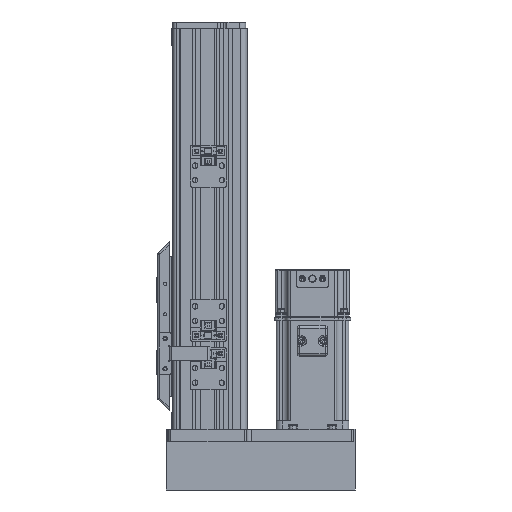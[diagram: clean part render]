
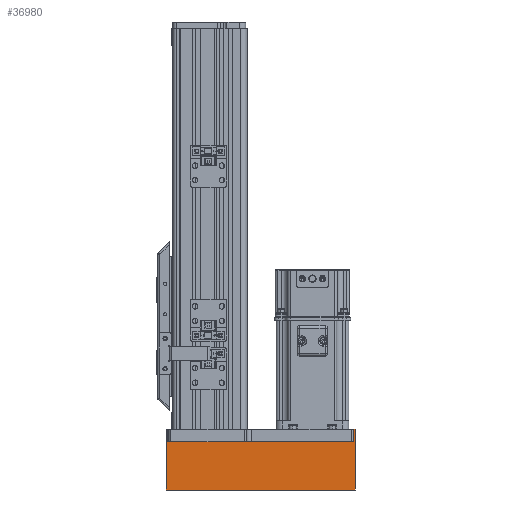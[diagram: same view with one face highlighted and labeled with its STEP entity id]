
A CAD part, left-side view. The second image highlights one B-rep face of the part: STEP entity #36980.
In plain terms, the highlighted planar face has unit normal (-1, 0, 0).
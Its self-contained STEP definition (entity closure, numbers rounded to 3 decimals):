
#487 = DIRECTION ( 'NONE',  ( 0., 0., 1. ) ) ;
#1049 = CARTESIAN_POINT ( 'NONE',  ( -35., 50., -90. ) ) ;
#3384 = ORIENTED_EDGE ( 'NONE', *, *, #63270, .F. ) ;
#3631 = VECTOR ( 'NONE', #18129, 1000. ) ;
#7053 = LINE ( 'NONE', #68105, #28425 ) ;
#7380 = LINE ( 'NONE', #61478, #54265 ) ;
#9522 = CARTESIAN_POINT ( 'NONE',  ( -35., 50., -80.8 ) ) ;
#9723 = EDGE_CURVE ( 'NONE', #47748, #51370, #7380, .T. ) ;
#11347 = DIRECTION ( 'NONE',  ( 0., 0., -1. ) ) ;
#11652 = LINE ( 'NONE', #12095, #64373 ) ;
#12095 = CARTESIAN_POINT ( 'NONE',  ( -35., 50., -82. ) ) ;
#12345 = ORIENTED_EDGE ( 'NONE', *, *, #34438, .T. ) ;
#12583 = VECTOR ( 'NONE', #40964, 1000. ) ;
#14679 = EDGE_CURVE ( 'NONE', #26153, #48880, #29007, .T. ) ;
#14680 = CARTESIAN_POINT ( 'NONE',  ( -35., 50., 74. ) ) ;
#16426 = PLANE ( 'NONE',  #41983 ) ;
#17101 = EDGE_LOOP ( 'NONE', ( #37209, #38192, #3384, #12345, #19070, #26338, #32334, #54699 ) ) ;
#17203 = CARTESIAN_POINT ( 'NONE',  ( -35., 0., -82. ) ) ;
#17549 = EDGE_CURVE ( 'NONE', #61779, #47748, #44506, .T. ) ;
#18129 = DIRECTION ( 'NONE',  ( 0., -1., 0. ) ) ;
#19070 = ORIENTED_EDGE ( 'NONE', *, *, #14679, .T. ) ;
#20735 = EDGE_CURVE ( 'NONE', #31869, #65043, #29370, .T. ) ;
#21143 = CARTESIAN_POINT ( 'NONE',  ( -35., 50., -82. ) ) ;
#21569 = CARTESIAN_POINT ( 'NONE',  ( -35., 50., 0. ) ) ;
#21712 = DIRECTION ( 'NONE',  ( 1., 0., 0. ) ) ;
#24594 = CARTESIAN_POINT ( 'NONE',  ( -35., 40., -80.8 ) ) ;
#24801 = VERTEX_POINT ( 'NONE', #17203 ) ;
#26153 = VERTEX_POINT ( 'NONE', #30365 ) ;
#26338 = ORIENTED_EDGE ( 'NONE', *, *, #43243, .F. ) ;
#27442 = CARTESIAN_POINT ( 'NONE',  ( -35., 40., -82. ) ) ;
#28425 = VECTOR ( 'NONE', #63030, 1000. ) ;
#29007 = LINE ( 'NONE', #35241, #12583 ) ;
#29370 = LINE ( 'NONE', #21569, #63122 ) ;
#29663 = VECTOR ( 'NONE', #38365, 1000. ) ;
#30365 = CARTESIAN_POINT ( 'NONE',  ( -35., 0., 74. ) ) ;
#31869 = VERTEX_POINT ( 'NONE', #21143 ) ;
#32334 = ORIENTED_EDGE ( 'NONE', *, *, #9723, .F. ) ;
#34438 = EDGE_CURVE ( 'NONE', #24801, #26153, #7053, .T. ) ;
#35241 = CARTESIAN_POINT ( 'NONE',  ( -35., 50., 74. ) ) ;
#36374 = FACE_OUTER_BOUND ( 'NONE', #17101, .T. ) ;
#36697 = CARTESIAN_POINT ( 'NONE',  ( -35., 50., 72.8 ) ) ;
#36980 = ADVANCED_FACE ( 'NONE', ( #36374 ), #16426, .F. ) ;
#37209 = ORIENTED_EDGE ( 'NONE', *, *, #59085, .F. ) ;
#37437 = LINE ( 'NONE', #54530, #3631 ) ;
#38192 = ORIENTED_EDGE ( 'NONE', *, *, #20735, .F. ) ;
#38353 = DIRECTION ( 'NONE',  ( 0., 1., 0. ) ) ;
#38365 = DIRECTION ( 'NONE',  ( 0., 0., 1. ) ) ;
#40278 = DIRECTION ( 'NONE',  ( 0., 1., 0. ) ) ;
#40964 = DIRECTION ( 'NONE',  ( 0., 1., 0. ) ) ;
#41983 = AXIS2_PLACEMENT_3D ( 'NONE', #58776, #21712, #11347 ) ;
#43243 = EDGE_CURVE ( 'NONE', #51370, #48880, #66692, .T. ) ;
#44506 = LINE ( 'NONE', #27442, #51856 ) ;
#47748 = VERTEX_POINT ( 'NONE', #58106 ) ;
#48880 = VERTEX_POINT ( 'NONE', #14680 ) ;
#51370 = VERTEX_POINT ( 'NONE', #36697 ) ;
#51856 = VECTOR ( 'NONE', #487, 1000. ) ;
#54265 = VECTOR ( 'NONE', #40278, 1000. ) ;
#54530 = CARTESIAN_POINT ( 'NONE',  ( -35., 50., -80.8 ) ) ;
#54699 = ORIENTED_EDGE ( 'NONE', *, *, #17549, .F. ) ;
#58106 = CARTESIAN_POINT ( 'NONE',  ( -35., 40., 72.8 ) ) ;
#58776 = CARTESIAN_POINT ( 'NONE',  ( -35., 50., -82. ) ) ;
#58867 = DIRECTION ( 'NONE',  ( 0., 0., 1. ) ) ;
#59085 = EDGE_CURVE ( 'NONE', #65043, #61779, #37437, .T. ) ;
#61478 = CARTESIAN_POINT ( 'NONE',  ( -35., 50., 72.8 ) ) ;
#61779 = VERTEX_POINT ( 'NONE', #24594 ) ;
#63030 = DIRECTION ( 'NONE',  ( 0., 0., 1. ) ) ;
#63122 = VECTOR ( 'NONE', #58867, 1000. ) ;
#63270 = EDGE_CURVE ( 'NONE', #24801, #31869, #11652, .T. ) ;
#64373 = VECTOR ( 'NONE', #38353, 1000. ) ;
#65043 = VERTEX_POINT ( 'NONE', #9522 ) ;
#66692 = LINE ( 'NONE', #1049, #29663 ) ;
#68105 = CARTESIAN_POINT ( 'NONE',  ( -35., 0., 0. ) ) ;
